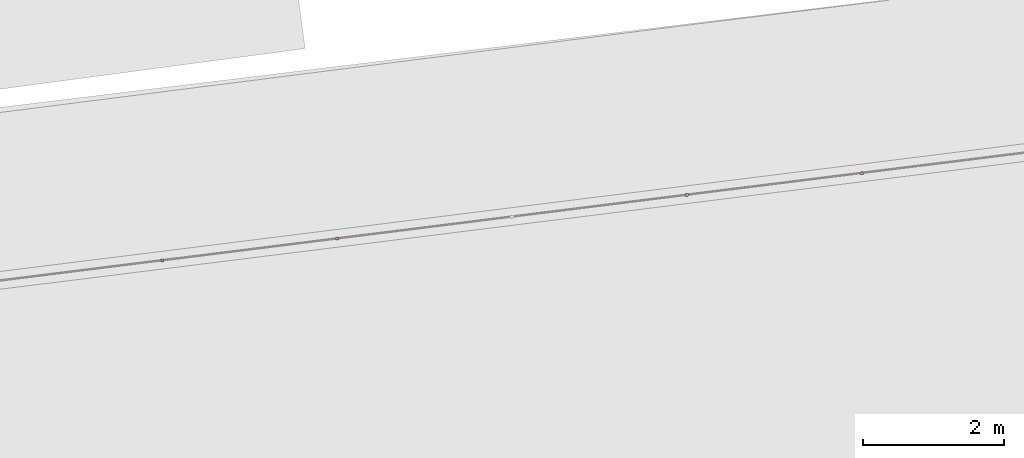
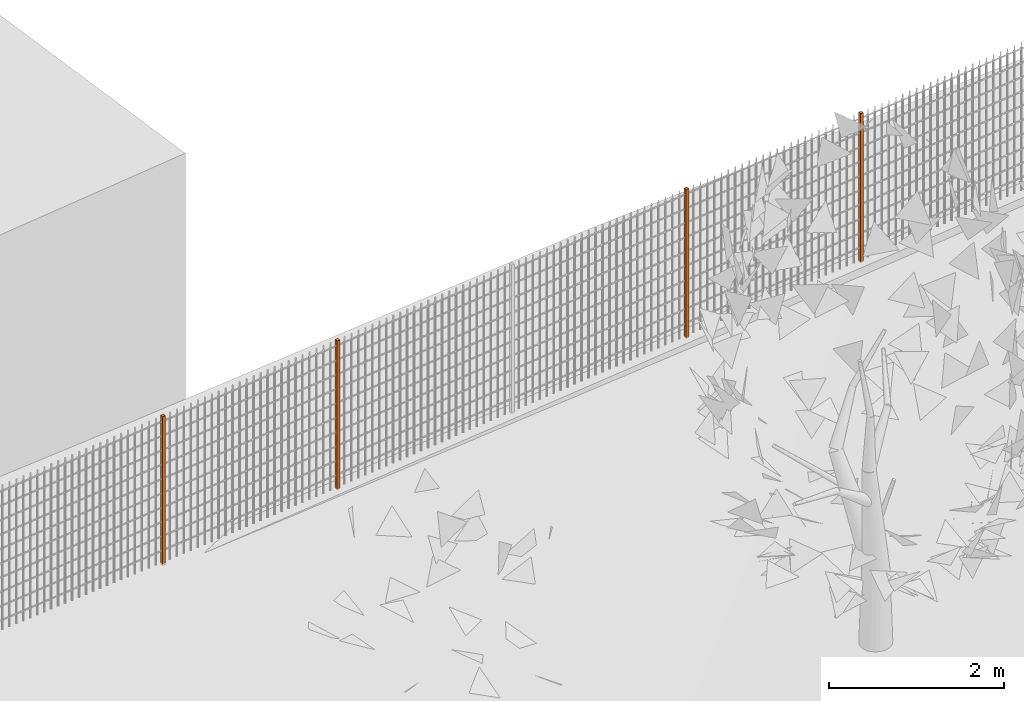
# One storey, part 26 of 1809: 4 proxies, 1 element without a shape of its own.
"""IFC2X3 building model written with IfcOpenShell, lengths in millimetres."""

from ifc_helpers import new_model, entity, si_unit, converted_unit, derived_unit, money_unit, direction, frame, origin_with_axes, place, context, subcontext, project, spatial, faceted_brep, source, transform, mapped, material, type_object, element, aggregate, save


model = new_model("IFC2X3")

# Units and contexts
model_context = context("Model", 3, precision=0.01, world=origin_with_axes(), true_north=direction((0.0, 1.0)))
body_context = subcontext(model_context, "Body", "Model", "MODEL_VIEW")
ifc_project = project(units=[si_unit("LENGTHUNIT", "METRE", prefix="MILLI"), si_unit("AREAUNIT", "SQUARE_METRE"), si_unit("VOLUMEUNIT", "CUBIC_METRE"), converted_unit("PLANEANGLEUNIT", "DEGREE", entity("IfcPlaneAngleMeasure", 0.0174532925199), si_unit("PLANEANGLEUNIT", "RADIAN"), dimensions=[0, 0, 0, 0, 0, 0, 0]), si_unit("SOLIDANGLEUNIT", "STERADIAN"), money_unit("EUR"), converted_unit("TIMEUNIT", "Year", entity("IfcTimeMeasure", 31556926.0), si_unit("TIMEUNIT", "SECOND"), dimensions=[0, 0, 1, 0, 0, 0, 0]), si_unit("MASSUNIT", "GRAM", prefix="KILO"), si_unit("THERMODYNAMICTEMPERATUREUNIT", "DEGREE_CELSIUS"), si_unit("LUMINOUSINTENSITYUNIT", "LUMEN"), si_unit("ENERGYUNIT", "JOULE", prefix="MEGA"), derived_unit("THERMALCONDUCTANCEUNIT", [(si_unit("POWERUNIT", "WATT"), 1), (si_unit("LENGTHUNIT", "METRE"), -1), (si_unit("THERMODYNAMICTEMPERATUREUNIT", "KELVIN"), -1)]), derived_unit("SPECIFICHEATCAPACITYUNIT", [(si_unit("ENERGYUNIT", "JOULE"), 1), (si_unit("MASSUNIT", "GRAM", prefix="KILO"), -1), (si_unit("THERMODYNAMICTEMPERATUREUNIT", "KELVIN"), -1)]), derived_unit("MASSDENSITYUNIT", [(si_unit("MASSUNIT", "GRAM", prefix="KILO"), 1), (si_unit("VOLUMEUNIT", "CUBIC_METRE"), -1)])], contexts=[model_context])

# Site, building, storey
site_placement = place(None, origin_with_axes())
site = spatial("IfcSite", under=ifc_project, at=site_placement, Name="Politse- ja Piirivalveameti ning Päästeameti ühishoone", CompositionType="ELEMENT")
building_placement = place(site_placement, origin_with_axes())
building = spatial("IfcBuilding", under=site, at=building_placement, Name="Politse- ja Piirivalveameti ning Päästeameti ühishoone", CompositionType="ELEMENT")
storey_placement = place(building_placement, origin_with_axes())
storey = spatial("IfcBuildingStorey", under=building, at=storey_placement, Name="Esimene korrus", CompositionType="ELEMENT", Elevation=0.0)

# Proxies
building_element_proxy_type_1 = type_object("IfcBuildingElementProxyType", Name="Railing Type", PredefinedType="NOTDEFINED")
proxy_1_placement = place(storey_placement, frame((44315.9245146, 76650.7857067, 296.762367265), z_axis=(0.0, 0.0, 1.0), x_axis=(0.122151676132, 0.992511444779, 0.0)))
proxy_1 = element("IfcBuildingElementProxy", 1, at=proxy_1_placement, inside=storey, type_object=building_element_proxy_type_1, Name="PIIRDEAED")
ifc_material = material(Name="ET-03_Raud")
building_element_proxy_type_2 = type_object("IfcBuildingElementProxyType", Name="IfcBuildingElementProxy", PredefinedType="NOTDEFINED")
shared_shape = source(origin_with_axes(), body_context, "Body", "Brep", [
    faceted_brep([(20.0, 20.0, 0.0), (-20.0, 20.0, 0.0), (-20.0, 20.0, 2080.0), (20.0, 20.0, 2080.0), (20.0, -20.0, 0.0), (-20.0, -20.0, 0.0), (-20.0, -20.0, 2080.0), (20.0, -20.0, 2080.0)], [[[0, 1, 2, 3]], [[0, 4, 5, 1]], [[1, 5, 6, 2]], [[3, 2, 6, 7]], [[4, 0, 3, 7]], [[5, 4, 7, 6]]]),
])
proxy_2_placement = place(proxy_1_placement, frame((-6576.62891103, 25337.0085614, 0.0), z_axis=(0.0, 0.0, 1.0), x_axis=(0.122151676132, -0.992511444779, 0.0)))
proxy_2 = element("IfcBuildingElementProxy", 2, at=proxy_2_placement, type_object=building_element_proxy_type_2, material=ifc_material, Name="SISEPOST - 001", context=body_context, shape_type="MappedRepresentation", body=[
    mapped(shared_shape, transform((0.0, 0.0, 0.0), x_axis=(-0.123895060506, 0.99229532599, 0.0), y_axis=(-0.99229532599, -0.123895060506, 0.0), z_axis=(0.0, 0.0, 1.0))),
])
proxy_3_placement = place(proxy_1_placement, frame((-7187.07341801, 27761.3347572, 0.0), z_axis=(0.0, 0.0, 1.0), x_axis=(0.122151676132, -0.992511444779, 0.0)))
proxy_3 = element("IfcBuildingElementProxy", 3, at=proxy_3_placement, type_object=building_element_proxy_type_2, material=ifc_material, Name="SISEPOST - 001", context=body_context, shape_type="MappedRepresentation", body=[
    mapped(shared_shape, transform((0.0, 0.0, 0.0), x_axis=(-0.123895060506, 0.99229532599, 0.0), y_axis=(-0.99229532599, -0.123895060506, 0.0), z_axis=(0.0, 0.0, 1.0))),
])
proxy_4_placement = place(proxy_1_placement, frame((-8407.96243198, 32609.9871489, 0.0), z_axis=(0.0, 0.0, 1.0), x_axis=(0.122151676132, -0.992511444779, 0.0)))
proxy_4 = element("IfcBuildingElementProxy", 4, at=proxy_4_placement, type_object=building_element_proxy_type_2, material=ifc_material, Name="SISEPOST - 001", context=body_context, shape_type="MappedRepresentation", body=[
    mapped(shared_shape, transform((0.0, 0.0, 0.0), x_axis=(-0.123895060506, 0.99229532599, 0.0), y_axis=(-0.99229532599, -0.123895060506, 0.0), z_axis=(0.0, 0.0, 1.0))),
])
proxy_5_placement = place(proxy_1_placement, frame((-9018.40693896, 35034.3133448, 0.0), z_axis=(0.0, 0.0, 1.0), x_axis=(0.122151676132, -0.992511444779, 0.0)))
proxy_5 = element("IfcBuildingElementProxy", 5, at=proxy_5_placement, type_object=building_element_proxy_type_2, material=ifc_material, Name="SISEPOST - 001", context=body_context, shape_type="MappedRepresentation", body=[
    mapped(shared_shape, transform((0.0, 0.0, 0.0), x_axis=(-0.123895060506, 0.99229532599, 0.0), y_axis=(-0.99229532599, -0.123895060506, 0.0), z_axis=(0.0, 0.0, 1.0))),
])
aggregate(proxy_1, [proxy_2, proxy_3, proxy_4, proxy_5])

save(model, "model.ifc")
